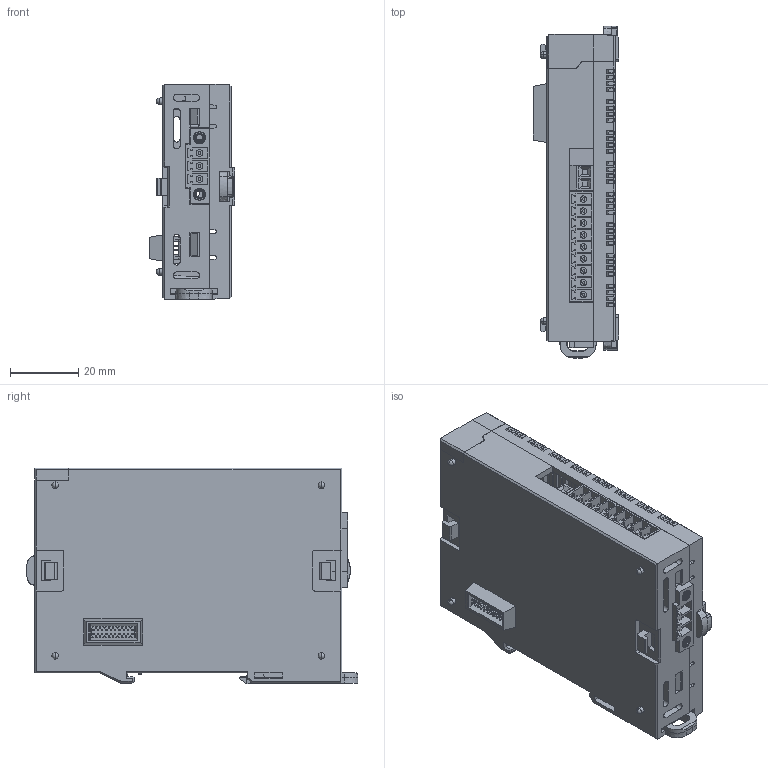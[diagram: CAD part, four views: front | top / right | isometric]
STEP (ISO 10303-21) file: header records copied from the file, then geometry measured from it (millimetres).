
FILE_DESCRIPTION (( 'STEP AP203' ), '1' );
FILE_NAME ('9.STEP', '2017-12-01T10:27:20', ( '' ), ( '' ), 'SwSTEP 2.0', 'SolidWorks 2017', '' );
FILE_SCHEMA (( 'CONFIG_CONTROL_DESIGN' ));
Length unit declared in the file: millimetre
Products named in the file (17): F; G; C-4; C-1; I; C-2; Connector_15EDGRM_3.81_03P_BCP22124_anytek; Insert_M2.5; 9; A; H; E; Plsc pin 雖雖渠 20_BCP09311_Plcs holder_12.5; D; B; C-3; C
Assembly tree (20 placements, depth 4):
  9
    A
    B
    C
      C-1
      C-2
      C-3
        Plsc pin 雖雖渠 20_BCP09311_Plcs holder_12.5  x2
      C-4
        Connector_15EDGRM_3.81_03P_BCP22124_anytek
        Insert_M2.5  x2
    D  x2
    E  x2
    F
    G
    H
    I
Bounding box: 25 x 97.2 x 63.2 mm (x, y, z)
Volume: 32784.2 mm3; surface area: 50047.5 mm2
Topology: 17 solids, 17 shells, 4428 faces, 12142 edges, 7816 vertices
Faces by surface type: plane 3621, cylinder 652, cone 76, bspline 53, torus 14, sphere 12
Entity records: 119174 total; most frequent: CARTESIAN_POINT 24775, ORIENTED_EDGE 20000, DIRECTION 17758, EDGE_CURVE 10000, LINE 8868, VECTOR 8868, VERTEX_POINT 6437, AXIS2_PLACEMENT_3D 4445
